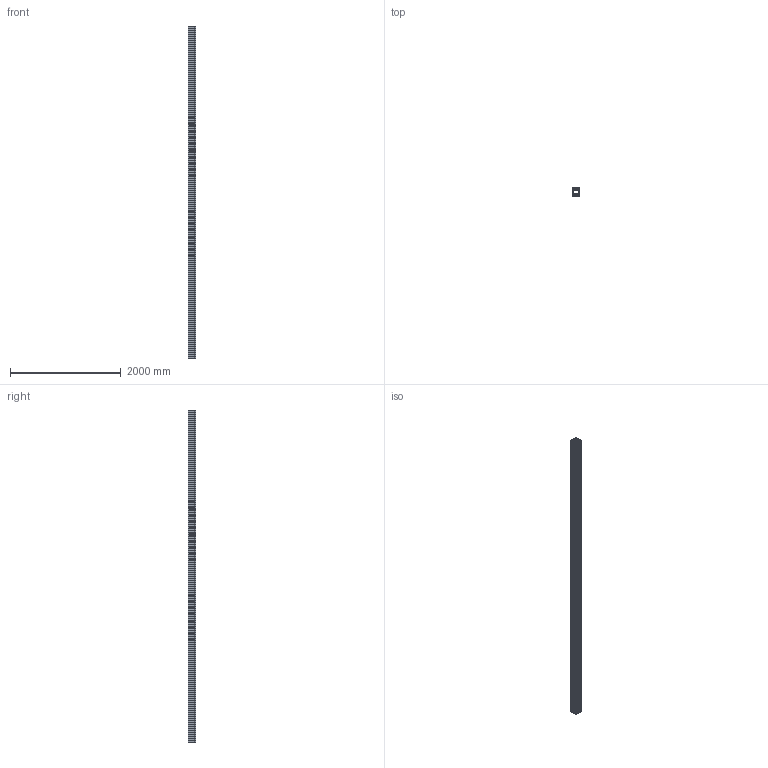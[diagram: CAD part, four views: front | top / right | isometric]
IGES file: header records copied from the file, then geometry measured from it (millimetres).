
Start section: SolidWorks IGES file using analytic representation for surfaces
Global section: file name: C:\Users\Ahmed\Desktop\Aluminium profiles\32-33-34-35-36-37\135x135 Slot 10.IGS; native system: SolidWorks 2016; preprocessor: SolidWorks 2016; author: Ahmed; date: 170811.021434; units: millimetre
Bounding box: 135 x 135 x 6000 mm (x, y, z)
Surface area: 17218596.2 mm2 (no closed solid volume)
Topology: 0 solids, 0 shells, 1004 faces, 8043 edges, 8043 vertices
Faces by surface type: bspline 758, revolution 246
